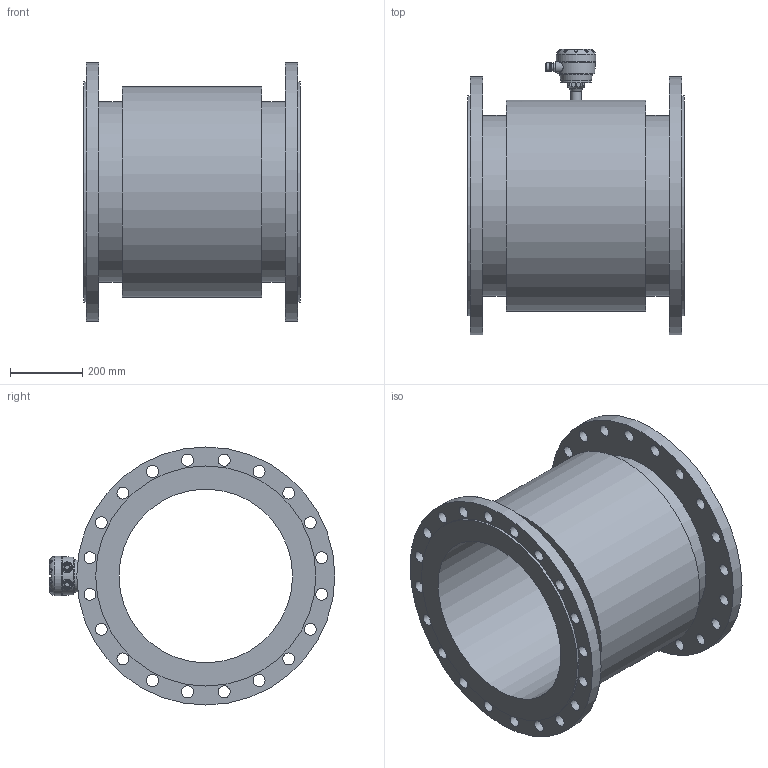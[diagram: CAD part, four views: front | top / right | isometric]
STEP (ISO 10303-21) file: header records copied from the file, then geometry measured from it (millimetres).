
FILE_DESCRIPTION (( 'STEP AP203' ), '1' );
FILE_NAME ('KROHNE_OPTIFLUX_2-4000W_DIN2633_DN500_PN16.STEP', '2011-04-26T11:24:54', ( '' ), ( '' ), 'SwSTEP 2.0', 'SolidWorks 2010', '' );
FILE_SCHEMA (( 'CONFIG_CONTROL_DESIGN' ));
Length unit declared in the file: millimetre
Products named in the file (1): KROHNE_OPTIFLUX_2-4000W_DIN2633_DN500_PN16
Bounding box: 600 x 791.49 x 715 mm (x, y, z)
Volume: 51779291.5 mm3; surface area: 3170812.5 mm2
Topology: 14 solids, 14 shells, 367 faces, 931 edges, 614 vertices
Faces by surface type: plane 158, cylinder 119, bspline 53, torus 18, sphere 13, cone 6
Full cylindrical faces by diameter (mm): 4 x4, 6.6 x8, 13 x2, 20 x2, 23.5 x4, 29 x1, 30 x2, 33 x40, 84 x2, 109 x1, 481 x1, 501 x2, 585 x1, 610 x2, 715 x2
Entity records: 14795 total; most frequent: CARTESIAN_POINT 6616, DIRECTION 1557, ORIENTED_EDGE 1554, EDGE_CURVE 777, EDGE_LOOP 598, AXIS2_PLACEMENT_3D 597, VERTEX_POINT 561, FACE_OUTER_BOUND 458
